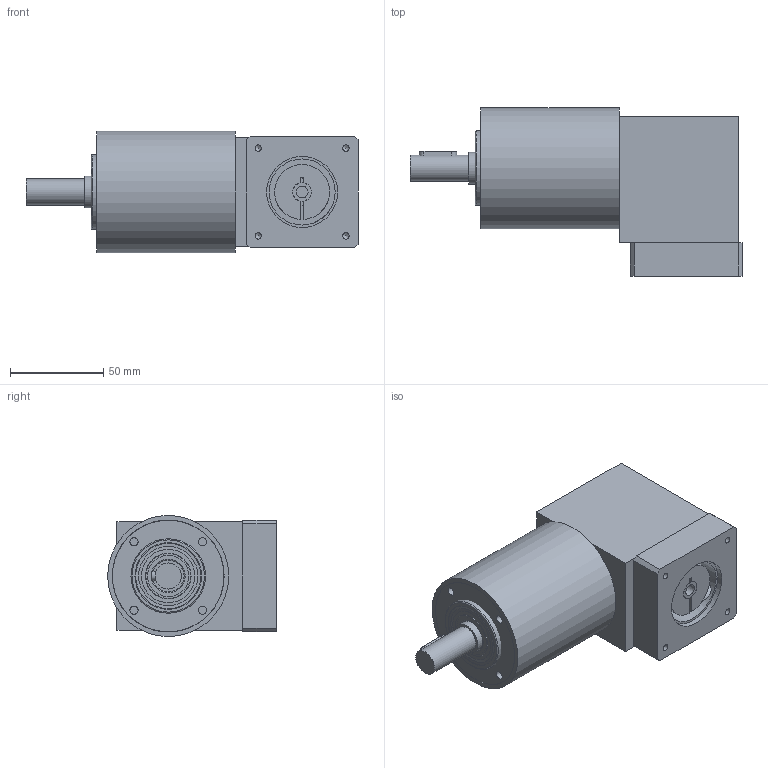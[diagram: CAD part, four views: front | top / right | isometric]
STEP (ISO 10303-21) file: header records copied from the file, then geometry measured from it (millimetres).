
FILE_DESCRIPTION(/* description */ (''),/* implementation_level */ '2;1');
FILE_NAME(/* name */ 'E000180626519MP020709111632_step214.stp',/* time_stamp */ '2009-07-02T11:21:53+02:00',/* author */ (''),/* organization */ (''),/* preprocessor_version */ 'ST-DEVELOPER v11',/* originating_system */ 'UGS - NX 5.0',/* authorisation */ '');
FILE_SCHEMA (('AUTOMOTIVE_DESIGN { 1 0 10303 214 0 1 1 1 }'));
Length unit declared in the file: millimetre
Products named in the file (1): E000180626519MP020709111632_M
Bounding box: 178.15 x 90.5 x 65 mm (x, y, z)
Volume: 662823.3 mm3; surface area: 103564 mm2
Topology: 14 solids, 14 shells, 154 faces, 322 edges, 206 vertices
Faces by surface type: plane 57, cylinder 57, cone 30, torus 10
Full cylindrical faces by diameter (mm): 3.432 x13, 4.351 x4, 4.5 x1, 6.35 x1, 7.5 x1, 9.75 x1, 10 x1, 14 x1, 15 x1, 17 x2, 22.2 x2, 24.5 x2, 32.9 x2, 35 x4, 35.5 x1, 38.1 x1, 40 x1, 43 x2, 50 x2, 57.4 x1, 59.85 x1, 60 x2, 65 x1
Entity records: 3593 total; most frequent: DIRECTION 638, CARTESIAN_POINT 606, ORIENTED_EDGE 400, AXIS2_PLACEMENT_3D 286, EDGE_LOOP 264, FACE_BOUND 237, EDGE_CURVE 200, VERTEX_POINT 184
